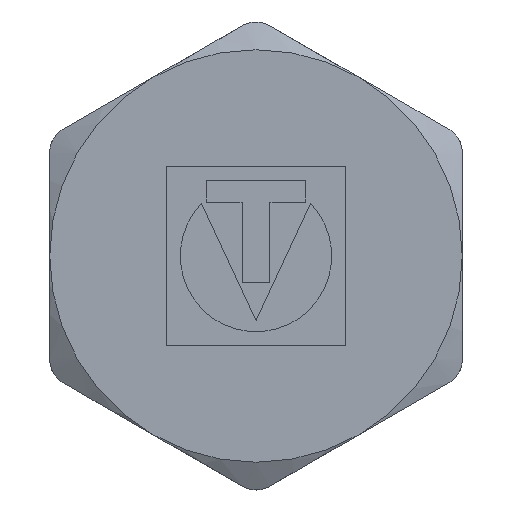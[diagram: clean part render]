
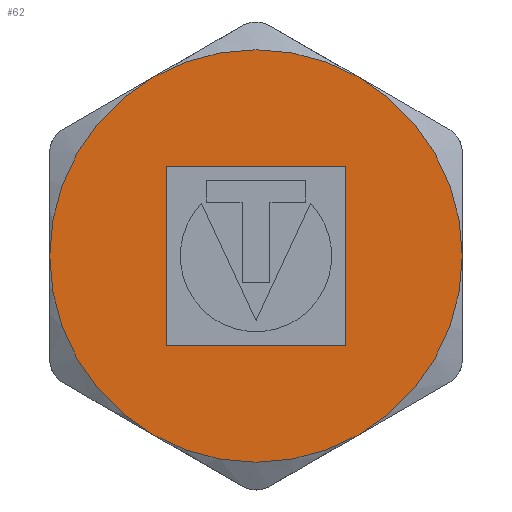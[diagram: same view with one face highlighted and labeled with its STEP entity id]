
A CAD part, front view. The second image highlights one B-rep face of the part: STEP entity #62.
In plain terms, the highlighted planar face has unit normal (0, -1, 0).
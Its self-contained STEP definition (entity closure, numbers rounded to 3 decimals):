
#62=ADVANCED_FACE('',(#224,#226),#228,.F.);
#224=FACE_BOUND('',#225,.T.);
#225=EDGE_LOOP('',(#490,#491,#492,#493,#494,#495));
#226=FACE_BOUND('',#227,.T.);
#227=EDGE_LOOP('',(#496,#497,#498,#499));
#228=PLANE('',#229);
#229=AXIS2_PLACEMENT_3D('',#230,#231,#232);
#230=CARTESIAN_POINT('',(0.,0.,0.));
#231=DIRECTION('',(0.,1.,0.));
#232=DIRECTION('',(-1.,0.,0.));
#490=ORIENTED_EDGE('',*,*,#659,.T.);
#491=ORIENTED_EDGE('',*,*,#657,.T.);
#492=ORIENTED_EDGE('',*,*,#655,.T.);
#493=ORIENTED_EDGE('',*,*,#665,.T.);
#494=ORIENTED_EDGE('',*,*,#663,.T.);
#495=ORIENTED_EDGE('',*,*,#661,.T.);
#496=ORIENTED_EDGE('',*,*,#666,.F.);
#497=ORIENTED_EDGE('',*,*,#667,.F.);
#498=ORIENTED_EDGE('',*,*,#668,.F.);
#499=ORIENTED_EDGE('',*,*,#669,.F.);
#655=EDGE_CURVE('',#749,#784,#790,.F.);
#657=EDGE_CURVE('',#758,#749,#792,.F.);
#659=EDGE_CURVE('',#765,#758,#794,.F.);
#661=EDGE_CURVE('',#772,#765,#796,.F.);
#663=EDGE_CURVE('',#779,#772,#798,.F.);
#665=EDGE_CURVE('',#784,#779,#800,.F.);
#666=EDGE_CURVE('',#801,#802,#803,.F.);
#667=EDGE_CURVE('',#804,#801,#805,.F.);
#668=EDGE_CURVE('',#806,#804,#807,.F.);
#669=EDGE_CURVE('',#802,#806,#808,.F.);
#749=VERTEX_POINT('',#964);
#758=VERTEX_POINT('',#1039);
#765=VERTEX_POINT('',#1105);
#772=VERTEX_POINT('',#1176);
#779=VERTEX_POINT('',#1247);
#784=VERTEX_POINT('',#1324);
#790=CIRCLE('',#1435,23.);
#792=CIRCLE('',#1483,23.);
#794=CIRCLE('',#1531,23.);
#796=CIRCLE('',#1579,23.);
#798=CIRCLE('',#1627,23.);
#800=CIRCLE('',#1675,23.);
#801=VERTEX_POINT('',#1679);
#802=VERTEX_POINT('',#1680);
#803=LINE('',#1681,#1682);
#804=VERTEX_POINT('',#1684);
#805=LINE('',#1685,#1686);
#806=VERTEX_POINT('',#1688);
#807=LINE('',#1689,#1690);
#808=LINE('',#1692,#1693);
#964=CARTESIAN_POINT('',(11.5,0.,19.919));
#1039=CARTESIAN_POINT('',(23.,0.,0.));
#1105=CARTESIAN_POINT('',(11.5,0.,-19.919));
#1176=CARTESIAN_POINT('',(-11.5,0.,-19.919));
#1247=CARTESIAN_POINT('',(-23.,0.,0.));
#1324=CARTESIAN_POINT('',(-11.5,0.,19.919));
#1435=AXIS2_PLACEMENT_3D('',#1436,#1437,#1438);
#1436=CARTESIAN_POINT('',(0.,0.,0.));
#1437=DIRECTION('',(0.,1.,0.));
#1438=DIRECTION('',(-0.5,0.,0.866));
#1483=AXIS2_PLACEMENT_3D('',#1484,#1485,#1486);
#1484=CARTESIAN_POINT('',(0.,0.,0.));
#1485=DIRECTION('',(0.,1.,0.));
#1486=DIRECTION('',(0.5,0.,0.866));
#1531=AXIS2_PLACEMENT_3D('',#1532,#1533,#1534);
#1532=CARTESIAN_POINT('',(0.,0.,0.));
#1533=DIRECTION('',(0.,1.,0.));
#1534=DIRECTION('',(1.,0.,0.));
#1579=AXIS2_PLACEMENT_3D('',#1580,#1581,#1582);
#1580=CARTESIAN_POINT('',(0.,0.,0.));
#1581=DIRECTION('',(0.,1.,0.));
#1582=DIRECTION('',(0.5,0.,-0.866));
#1627=AXIS2_PLACEMENT_3D('',#1628,#1629,#1630);
#1628=CARTESIAN_POINT('',(0.,0.,0.));
#1629=DIRECTION('',(0.,1.,0.));
#1630=DIRECTION('',(-0.5,0.,-0.866));
#1675=AXIS2_PLACEMENT_3D('',#1676,#1677,#1678);
#1676=CARTESIAN_POINT('',(0.,0.,0.));
#1677=DIRECTION('',(0.,1.,0.));
#1678=DIRECTION('',(-1.,0.,0.));
#1679=CARTESIAN_POINT('',(-10.,0.,10.));
#1680=CARTESIAN_POINT('',(-10.,0.,-10.));
#1681=CARTESIAN_POINT('',(-10.,0.,-10.));
#1682=VECTOR('',#1683,1.);
#1683=DIRECTION('',(0.,0.,1.));
#1684=CARTESIAN_POINT('',(10.004,0.,10.));
#1685=CARTESIAN_POINT('',(-10.,0.,10.));
#1686=VECTOR('',#1687,1.);
#1687=DIRECTION('',(1.,0.,0.));
#1688=CARTESIAN_POINT('',(10.,0.,-10.));
#1689=CARTESIAN_POINT('',(10.004,0.,10.));
#1690=VECTOR('',#1691,1.);
#1691=DIRECTION('',(0.,0.,-1.));
#1692=CARTESIAN_POINT('',(10.,0.,-10.));
#1693=VECTOR('',#1694,1.);
#1694=DIRECTION('',(-1.,0.,0.));
